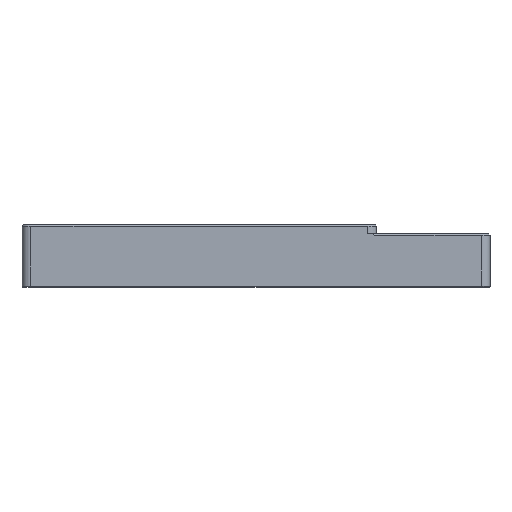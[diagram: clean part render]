
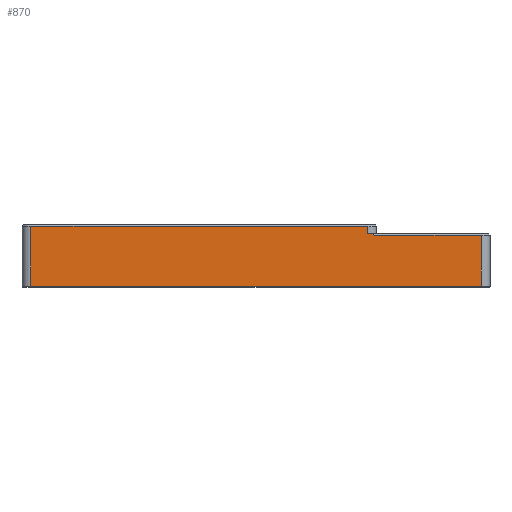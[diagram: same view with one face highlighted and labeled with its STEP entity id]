
A CAD part, left-side view. The second image highlights one B-rep face of the part: STEP entity #870.
In plain terms, the highlighted planar face has unit normal (-1, 0, 0).
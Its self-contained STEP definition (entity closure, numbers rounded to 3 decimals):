
#656=B_SPLINE_CURVE_WITH_KNOTS('',3,(#7299,#7300,#7301,#7302),
 .UNSPECIFIED.,.F.,.F.,(4,4),(0.,1.),.UNSPECIFIED.);
#870=ADVANCED_FACE('',(#1235),#1089,.T.);
#1089=PLANE('',#5332);
#1235=FACE_OUTER_BOUND('',#1435,.T.);
#1435=EDGE_LOOP('',(#1809,#1810,#1811,#1812,#1813,#1814,#1815,#1816));
#1809=ORIENTED_EDGE('',*,*,#3725,.T.);
#1810=ORIENTED_EDGE('',*,*,#3726,.T.);
#1811=ORIENTED_EDGE('',*,*,#3727,.F.);
#1812=ORIENTED_EDGE('',*,*,#3728,.F.);
#1813=ORIENTED_EDGE('',*,*,#3729,.T.);
#1814=ORIENTED_EDGE('',*,*,#3730,.T.);
#1815=ORIENTED_EDGE('',*,*,#3722,.T.);
#1816=ORIENTED_EDGE('',*,*,#3731,.T.);
#3178=VERTEX_POINT('',#7289);
#3179=VERTEX_POINT('',#7290);
#3180=VERTEX_POINT('',#7295);
#3181=VERTEX_POINT('',#7296);
#3182=VERTEX_POINT('',#7298);
#3183=VERTEX_POINT('',#7303);
#3184=VERTEX_POINT('',#7305);
#3185=VERTEX_POINT('',#7307);
#3722=EDGE_CURVE('',#3178,#3179,#4402,.T.);
#3725=EDGE_CURVE('',#3180,#3181,#4403,.T.);
#3726=EDGE_CURVE('',#3181,#3182,#4404,.T.);
#3727=EDGE_CURVE('',#3183,#3182,#656,.T.);
#3728=EDGE_CURVE('',#3184,#3183,#4405,.T.);
#3729=EDGE_CURVE('',#3184,#3185,#4406,.T.);
#3730=EDGE_CURVE('',#3185,#3178,#4407,.T.);
#3731=EDGE_CURVE('',#3179,#3180,#4408,.T.);
#4402=LINE('',#7288,#4887);
#4403=LINE('',#7294,#4888);
#4404=LINE('',#7297,#4889);
#4405=LINE('',#7304,#4890);
#4406=LINE('',#7306,#4891);
#4407=LINE('',#7308,#4892);
#4408=LINE('',#7309,#4893);
#4887=VECTOR('',#5860,1.);
#4888=VECTOR('',#5867,1.);
#4889=VECTOR('',#5868,1.);
#4890=VECTOR('',#5869,1.);
#4891=VECTOR('',#5870,1.);
#4892=VECTOR('',#5871,1.);
#4893=VECTOR('',#5872,1.);
#5332=AXIS2_PLACEMENT_3D('',#7310,#5873,#5874);
#5860=DIRECTION('',(0.,0.,-1.));
#5867=DIRECTION('',(0.,0.,1.));
#5868=DIRECTION('',(0.,1.,0.));
#5869=DIRECTION('',(0.,-1.,0.));
#5870=DIRECTION('',(0.,0.,1.));
#5871=DIRECTION('',(0.,1.,0.));
#5872=DIRECTION('',(0.,-1.,0.));
#5873=DIRECTION('',(-1.,0.,0.));
#5874=DIRECTION('',(0.,-1.,0.));
#7288=CARTESIAN_POINT('',(-46.,134.9,-2.85));
#7289=CARTESIAN_POINT('',(-46.,134.9,7.45));
#7290=CARTESIAN_POINT('',(-46.,134.9,-13.4));
#7294=CARTESIAN_POINT('',(-46.,-21.9,-2.85));
#7295=CARTESIAN_POINT('',(-46.,-21.9,-13.4));
#7296=CARTESIAN_POINT('',(-46.,-21.9,4.35));
#7297=CARTESIAN_POINT('',(-46.,12.464,4.35));
#7298=CARTESIAN_POINT('',(-46.,14.4,4.35));
#7299=CARTESIAN_POINT('',(-46.,16.336,4.85));
#7300=CARTESIAN_POINT('',(-46.,15.735,4.559));
#7301=CARTESIAN_POINT('',(-46.,15.08,4.35));
#7302=CARTESIAN_POINT('',(-46.,14.4,4.35));
#7303=CARTESIAN_POINT('',(-46.,16.336,4.85));
#7304=CARTESIAN_POINT('',(-46.,56.5,4.85));
#7305=CARTESIAN_POINT('',(-46.,17.6,4.85));
#7306=CARTESIAN_POINT('',(-46.,17.6,7.95));
#7307=CARTESIAN_POINT('',(-46.,17.6,7.45));
#7308=CARTESIAN_POINT('',(-46.,56.5,7.45));
#7309=CARTESIAN_POINT('',(-46.,56.5,-13.4));
#7310=CARTESIAN_POINT('',(-46.,56.5,-2.85));
